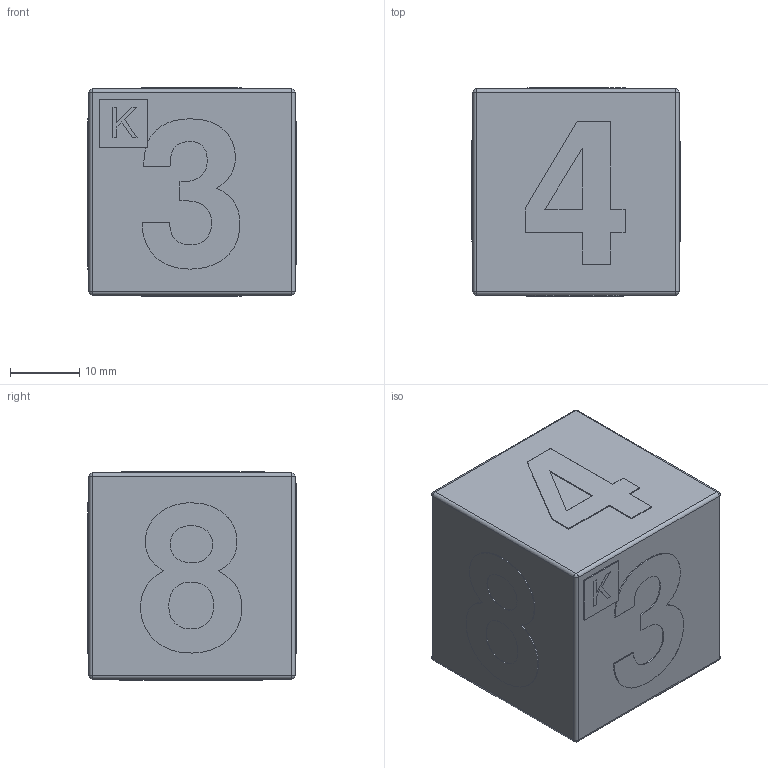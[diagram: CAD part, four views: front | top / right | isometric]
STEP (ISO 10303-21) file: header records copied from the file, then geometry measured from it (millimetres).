
FILE_DESCRIPTION(('Open CASCADE Model'),'2;1');
FILE_NAME('Open CASCADE Shape Model','2025-09-14T20:47:14',('Author'),( 'Open CASCADE'),'Open CASCADE STEP processor 7.8','Open CASCADE 7.8' ,'Unknown');
FILE_SCHEMA(('AUTOMOTIVE_DESIGN { 1 0 10303 214 1 1 1 1 }'));
Length unit declared in the file: millimetre
Products named in the file (20): 9cad5282-91a3-11f0-88d2-1c1b0deae66b; 9cad543a-91a3-11f0-88d2-1c1b0deae66b; 9cad543a-91a3-11f0-88d2-1c1b0deae66b_part; 9cb9b5fe-91a3-11f0-88d2-1c1b0deae66b; 9cb9b5fe-91a3-11f0-88d2-1c1b0deae66b_part; 9cbb0076-91a3-11f0-88d2-1c1b0deae66b; 9cbb0076-91a3-11f0-88d2-1c1b0deae66b_part; 9cbce616-91a3-11f0-88d2-1c1b0deae66b; 9cbce616-91a3-11f0-88d2-1c1b0deae66b_part; 9cbeb95a-91a3-11f0-88d2-1c1b0deae66b; 9cbeb95a-91a3-11f0-88d2-1c1b0deae66b_part; 9cc00bf2-91a3-11f0-88d2-1c1b0deae66b; 9cc00bf2-91a3-11f0-88d2-1c1b0deae66b_part; 9cc15336-91a3-11f0-88d2-1c1b0deae66b; 9cc15336-91a3-11f0-88d2-1c1b0deae66b_part; 9cc5360e-91a3-11f0-88d2-1c1b0deae66b; 9cc5360e-91a3-11f0-88d2-1c1b0deae66b_part; 9cc5371c-91a3-11f0-88d2-1c1b0deae66b; 9cc5371c-91a3-11f0-88d2-1c1b0deae66b_part
Assembly tree (19 placements, depth 4):
  9cad5282-91a3-11f0-88d2-1c1b0deae66b
    9cad5282-91a3-11f0-88d2-1c1b0deae66b
      9cad543a-91a3-11f0-88d2-1c1b0deae66b
        9cad543a-91a3-11f0-88d2-1c1b0deae66b_part
      9cb9b5fe-91a3-11f0-88d2-1c1b0deae66b
        9cb9b5fe-91a3-11f0-88d2-1c1b0deae66b_part
      9cbb0076-91a3-11f0-88d2-1c1b0deae66b
        9cbb0076-91a3-11f0-88d2-1c1b0deae66b_part
      9cbce616-91a3-11f0-88d2-1c1b0deae66b
        9cbce616-91a3-11f0-88d2-1c1b0deae66b_part
      9cbeb95a-91a3-11f0-88d2-1c1b0deae66b
        9cbeb95a-91a3-11f0-88d2-1c1b0deae66b_part
      9cc00bf2-91a3-11f0-88d2-1c1b0deae66b
        9cc00bf2-91a3-11f0-88d2-1c1b0deae66b_part
      9cc15336-91a3-11f0-88d2-1c1b0deae66b
        9cc15336-91a3-11f0-88d2-1c1b0deae66b_part
      9cc5360e-91a3-11f0-88d2-1c1b0deae66b
        9cc5360e-91a3-11f0-88d2-1c1b0deae66b_part
      9cc5371c-91a3-11f0-88d2-1c1b0deae66b
        9cc5371c-91a3-11f0-88d2-1c1b0deae66b_part
Bounding box: 30 x 30 x 30 mm (x, y, z)
Volume: 26330 mm3; surface area: 7321.5 mm2
Topology: 9 solids, 9 shells, 211 faces, 563 edges, 362 vertices
Faces by surface type: plane 104, extrusion 87, cylinder 12, sphere 8
Entity records: 14183 total; most frequent: CARTESIAN_POINT 3202, DIRECTION 1678, VECTOR 1342, LINE 1255, ORIENTED_EDGE 1110, PCURVE 1110, DEFINITIONAL_REPRESENTATION 1110, EDGE_CURVE 555
